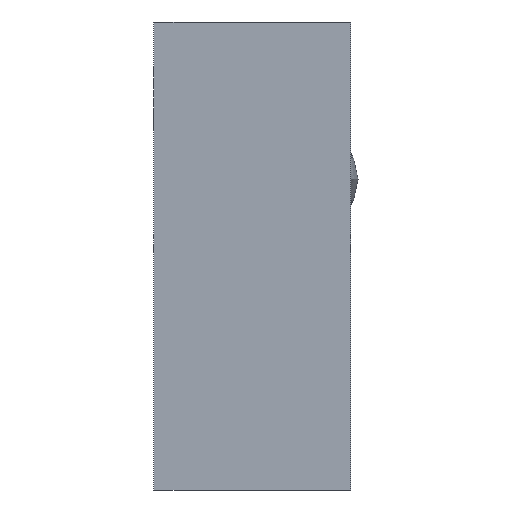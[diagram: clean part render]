
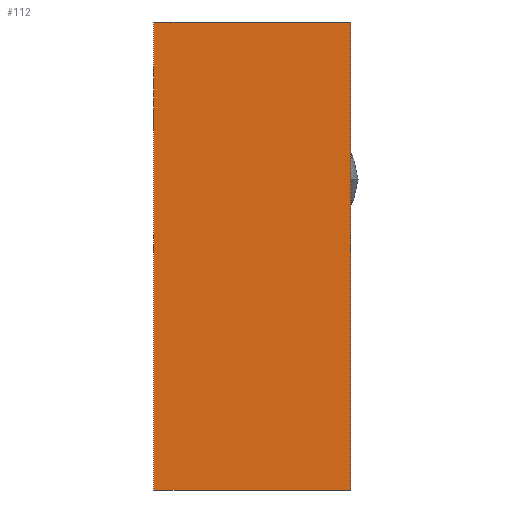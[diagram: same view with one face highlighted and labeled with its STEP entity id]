
A CAD part, left-side view. The second image highlights one B-rep face of the part: STEP entity #112.
In plain terms, the highlighted planar face has unit normal (-1, 0, 0).
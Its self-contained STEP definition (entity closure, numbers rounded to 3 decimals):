
#112 = ADVANCED_FACE( '', ( #277 ), #278, .T. );
#277 = FACE_OUTER_BOUND( '', #511, .T. );
#278 = PLANE( '', #512 );
#511 = EDGE_LOOP( '', ( #942, #943, #944, #945 ) );
#512 = AXIS2_PLACEMENT_3D( '', #946, #947, #948 );
#942 = ORIENTED_EDGE( '', *, *, #1478, .F. );
#943 = ORIENTED_EDGE( '', *, *, #1479, .F. );
#944 = ORIENTED_EDGE( '', *, *, #1471, .T. );
#945 = ORIENTED_EDGE( '', *, *, #1480, .T. );
#946 = CARTESIAN_POINT( '', ( 0., 10.5, 25. ) );
#947 = DIRECTION( '', ( -1., 0., 0. ) );
#948 = DIRECTION( '', ( 0., 0., 1. ) );
#1471 = EDGE_CURVE( '', #1720, #1718, #1721, .T. );
#1478 = EDGE_CURVE( '', #1731, #1732, #1733, .T. );
#1479 = EDGE_CURVE( '', #1720, #1731, #1734, .T. );
#1480 = EDGE_CURVE( '', #1718, #1732, #1735, .T. );
#1718 = VERTEX_POINT( '', #2063 );
#1720 = VERTEX_POINT( '', #2066 );
#1721 = LINE( '', #2067, #2068 );
#1731 = VERTEX_POINT( '', #2079 );
#1732 = VERTEX_POINT( '', #2080 );
#1733 = LINE( '', #2081, #2082 );
#1734 = LINE( '', #2083, #2084 );
#1735 = LINE( '', #2085, #2086 );
#2063 = CARTESIAN_POINT( '', ( 0., 10.5, 0. ) );
#2066 = CARTESIAN_POINT( '', ( 0., 10.5, 25. ) );
#2067 = CARTESIAN_POINT( '', ( 0., 10.5, 25. ) );
#2068 = VECTOR( '', #2516, 1000. );
#2079 = CARTESIAN_POINT( '', ( 0., 0., 25. ) );
#2080 = CARTESIAN_POINT( '', ( 0., 0., 0. ) );
#2081 = CARTESIAN_POINT( '', ( 0., 0., 25. ) );
#2082 = VECTOR( '', #2527, 1000. );
#2083 = CARTESIAN_POINT( '', ( 0., 10.5, 25. ) );
#2084 = VECTOR( '', #2528, 1000. );
#2085 = CARTESIAN_POINT( '', ( 0., 10.5, 0. ) );
#2086 = VECTOR( '', #2529, 1000. );
#2516 = DIRECTION( '', ( 0., 0., -1. ) );
#2527 = DIRECTION( '', ( 0., 0., -1. ) );
#2528 = DIRECTION( '', ( 0., -1., 0. ) );
#2529 = DIRECTION( '', ( 0., -1., 0. ) );
